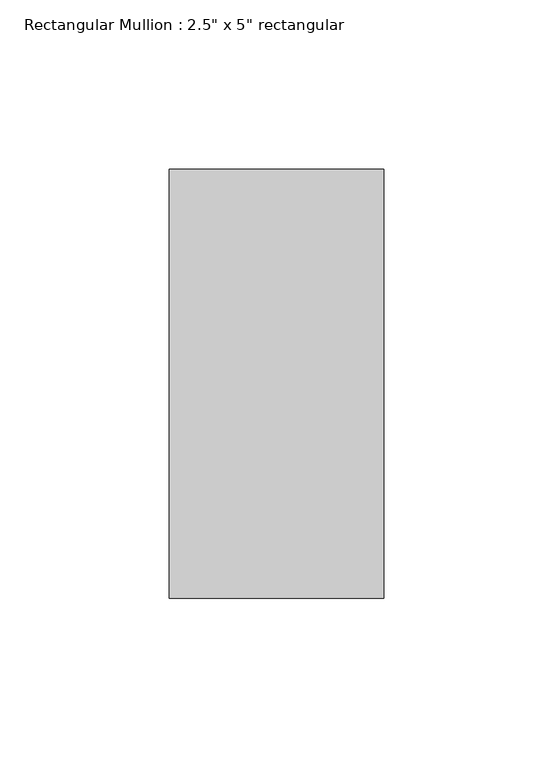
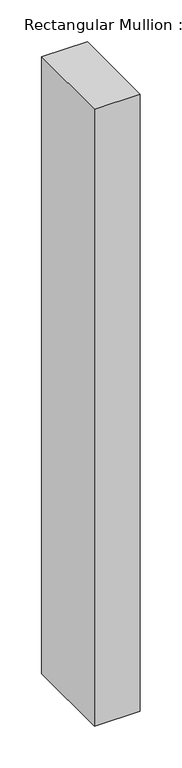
"""IFC4 building model written with IfcOpenShell, lengths in millimetres: member geometry."""

from ifc_helpers import new_model, si_unit, frame, origin, place, context, project, spatial, polyline, outline, extrude, source, transform, mapped, element, save


def member_db362dbf(model_context):
    return source(origin(), model_context, "Body", "SweptSolid", [
        extrude(outline(polyline([(31.75, 50.8), (31.75, -76.2), (-31.75, -76.2), (-31.75, 50.8), (31.75, 50.8)])), frame((0.0, 0.0, -903.203044), z_axis=(0.0, 0.0, 1.0), x_axis=(1.0, 0.0, 0.0)), (0.0, 0.0, 1.0), 903.203044),
    ])


if __name__ == "__main__":
    model = new_model("IFC4")
    model_context = context("Model", 3, world=origin())
    ifc_project = project(units=[si_unit("LENGTHUNIT", "METRE", prefix="MILLI")], contexts=[model_context])
    site = spatial("IfcSite", under=ifc_project)
    building = spatial("IfcBuilding", under=site)
    placement = place(None, origin())
    member_shape = member_db362dbf(model_context)
    element("IfcMember", 1, ObjectType="Rectangular Mullion : 2.5\" x 5\" rectangular", at=placement, inside=building, context=model_context, shape_type="MappedRepresentation", body=[
        mapped(member_shape, transform((0.0, 0.0, 0.0), x_axis=(1.0, 0.0, 0.0), y_axis=(0.0, 1.0, 0.0), z_axis=(0.0, 0.0, 1.0))),
    ])
    save(model, "model.ifc")
